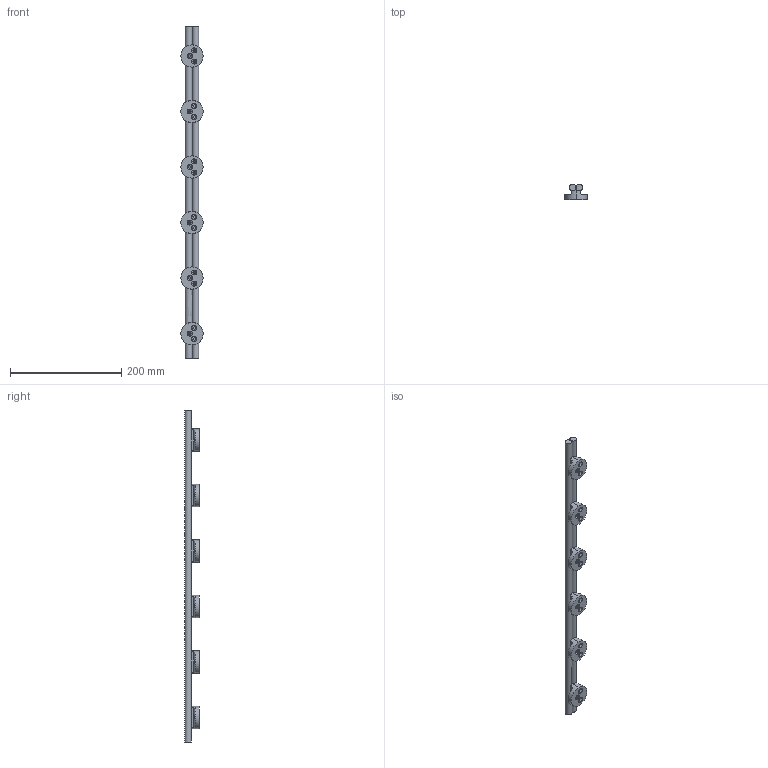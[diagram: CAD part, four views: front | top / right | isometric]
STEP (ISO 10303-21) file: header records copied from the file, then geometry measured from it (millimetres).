
FILE_DESCRIPTION (( 'STEP AP214' ), '1' );
FILE_NAME ('LF 1_-_LF 1 598 mm lang.step', '2005-06-03T05:52:51', ( ' ' ), ( ' ' ), 'SwSTEP 2.0', 'SolidWorks 2004231', '' );
FILE_SCHEMA (( 'AUTOMOTIVE_DESIGN' ));
Length unit declared in the file: millimetre
Products named in the file (1): LF 1_-_LF 1  598 mm lang
Bounding box: 40 x 27 x 598 mm (x, y, z)
Volume: 217210.8 mm3; surface area: 76014.1 mm2
Topology: 1 solids, 1 shells, 673 faces, 1665 edges, 1006 vertices
Faces by surface type: plane 316, cylinder 261, cone 60, torus 36
Entity records: 20601 total; most frequent: CARTESIAN_POINT 5651, ORIENTED_EDGE 3210, DIRECTION 2893, EDGE_CURVE 1605, AXIS2_PLACEMENT_3D 1028, VERTEX_POINT 1006, VECTOR 837, LINE 837
